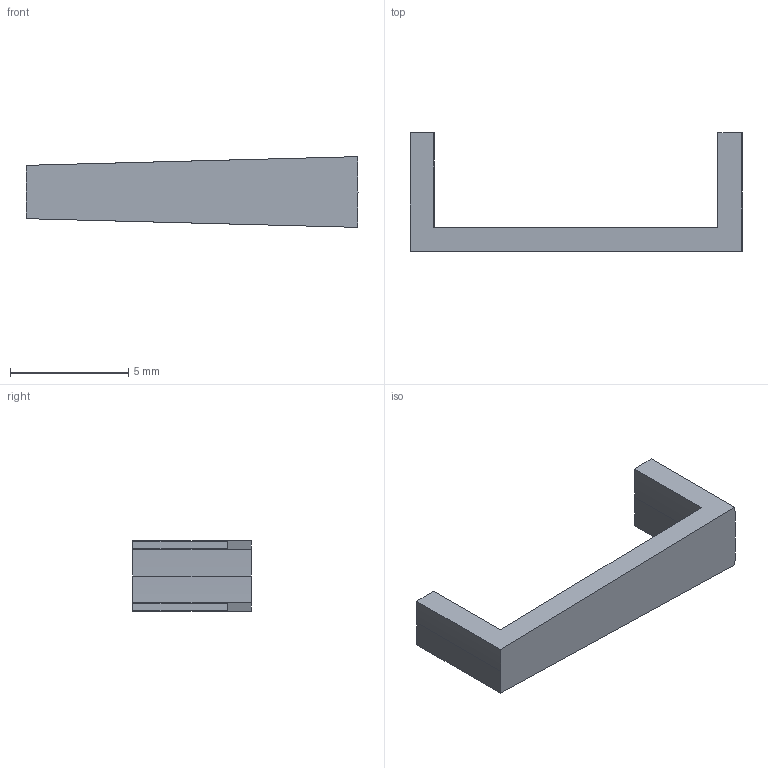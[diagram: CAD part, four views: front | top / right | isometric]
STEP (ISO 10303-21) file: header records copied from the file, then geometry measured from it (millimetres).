
FILE_DESCRIPTION(('STEP AP214'),'1');
FILE_NAME('Top_Die.stp','2020-05-27T18:03:13',(' '),(' '),'Spatial InterOp 3D',' ',' ');
FILE_SCHEMA(('AUTOMOTIVE_DESIGN { 1 0 10303 214 1 1 1 1 }'));
Length unit declared in the file: metre
Products named in the file (1): Solid
Bounding box: 14.01 x 5 x 2.98 mm (x, y, z)
Volume: 57.6 mm3; surface area: 164.4 mm2
Topology: 1 solids, 1 shells, 14 faces, 36 edges, 24 vertices
Faces by surface type: cylinder 8, plane 6
Entity records: 461 total; most frequent: DIRECTION 82, CARTESIAN_POINT 75, ORIENTED_EDGE 72, EDGE_CURVE 36, AXIS2_PLACEMENT_3D 31, VERTEX_POINT 24, LINE 20, VECTOR 20
